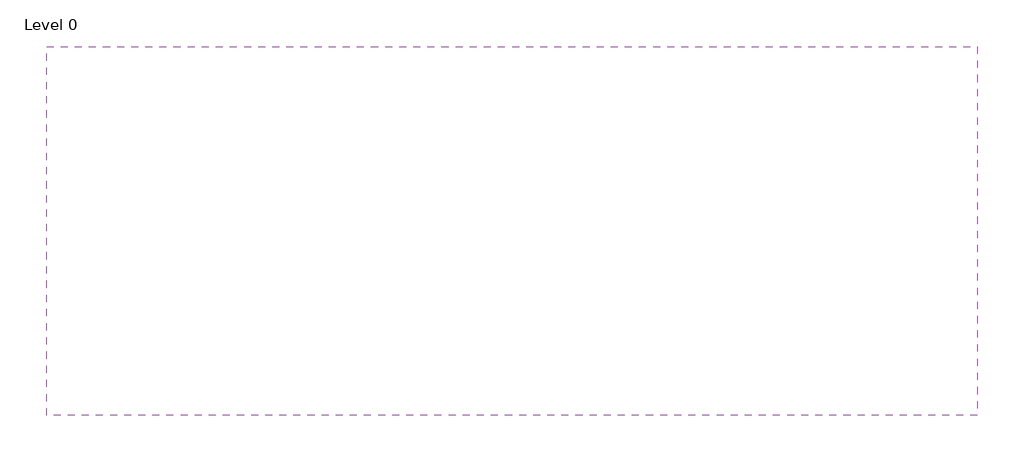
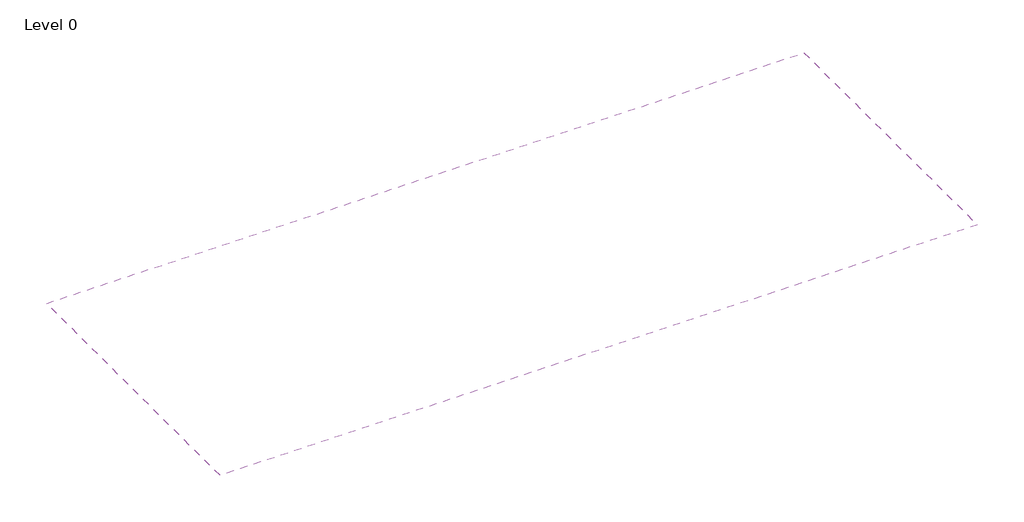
# One storey: 1 covering.
"""IFC4 building model written with IfcOpenShell, lengths in millimetres."""

from ifc_helpers import new_model, si_unit, frame, origin, place, context, project, spatial, polyline, outline, extrude, element, save

model = new_model("IFC4")

# Units and contexts
model_context = context("Model", 3, world=origin())
ifc_project = project(units=[si_unit("LENGTHUNIT", "METRE", prefix="MILLI")], contexts=[model_context])

# Site, building, storey
site = spatial("IfcSite", under=ifc_project)
building = spatial("IfcBuilding", under=site)
storey = spatial("IfcBuildingStorey", under=building, Name="Level 0", Elevation=0.0)

# Covering
placement = place(None, origin())
element("IfcCovering", 1, ObjectType="C100015 - CasoLine MF", at=placement, inside=storey, context=model_context, shape_type="SweptSolid", body=[
    extrude(outline(polyline([(5539.9180902, 3298.2151047), (5539.9180902, -1501.7848953), (-6560.0819098, -1501.7848953), (-6560.0819098, 3298.2151047), (5539.9180902, 3298.2151047)])), frame((0.0, 0.0, 2600.0), z_axis=(0.0, 0.0, 1.0), x_axis=(1.0, 0.0, 0.0)), (0.0, 0.0, 1.0), 105.0),
])

save(model, "model.ifc")
